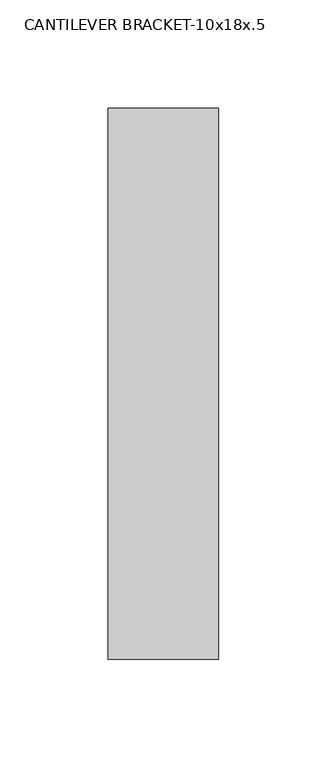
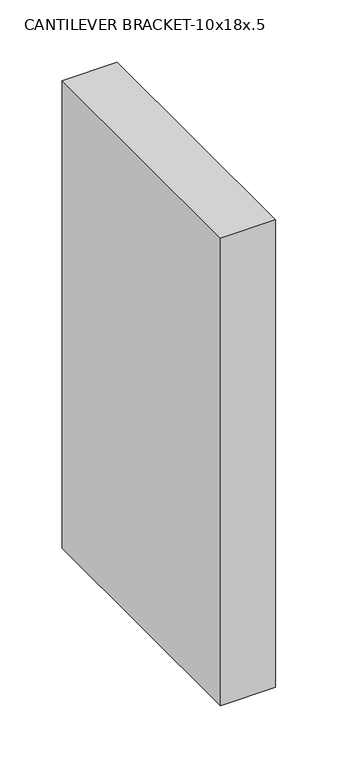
"""IFC4 building model written with IfcOpenShell, lengths in millimetres: proxy geometry, CANTILEVER BRACKET-10x18x.5."""

import ifcopenshell
import ifcopenshell.guid

model = None  # the IFC model being written
_history = None  # IfcOwnerHistory: only IFC2X3 demands one
_inside = {}  # id of a spatial element -> (the spatial element, [elements in it])
_under = {}  # id of a project, library or spatial element -> (it, [spatial elements below it])
_declared = {}  # id of a project -> (the project, [libraries it declares])
_typed = {}  # id of a type object -> (the type object, [elements of that type])
_made_of = {}  # id of a material, layer set ... -> (it, [elements and type objects made of it])


def new_model(schema):
    """Start an empty IFC model of exactly this schema.

    Asked for "IFC4X3", IfcOpenShell would pick the latest addendum, in which some entities
    have other attributes; the version numbers below select the first issue.
    IFC2X3 requires an IfcOwnerHistory on every rooted entity: one is made here for all.
    """
    global model, _history
    if schema == "IFC4X3":
        model = ifcopenshell.file(schema_version=(4, 3, 0, 0))
    else:
        model = ifcopenshell.file(schema=schema)
    _inside.clear()
    _under.clear()
    _declared.clear()
    _typed.clear()
    _made_of.clear()
    _history = None
    if model.schema == "IFC2X3":
        org = make("IfcOrganization", Name="unknown")
        user = make(
            "IfcPersonAndOrganization",
            ThePerson=make("IfcPerson", FamilyName="unknown"),
            TheOrganization=org,
        )
        app = make(
            "IfcApplication",
            ApplicationDeveloper=org,
            Version="unknown",
            ApplicationFullName="unknown",
            ApplicationIdentifier="unknown",
        )
        _history = make(
            "IfcOwnerHistory",
            OwningUser=user,
            OwningApplication=app,
            ChangeAction="ADDED",
            CreationDate=0,
        )
    return model


def make(cls, **values):
    """One entity of the class cls with the attributes given. An attribute that is None is left unset."""
    return model.create_entity(
        cls, **{name: value for name, value in values.items() if value is not None}
    )


def rooted(cls, **values):
    """An entity with a GlobalId (a new one), such as an element, a storey or a relation."""
    return make(cls, GlobalId=ifcopenshell.guid.new(), OwnerHistory=_history, **values)


def si_unit(unit_type, name, prefix=None):
    """IfcSIUnit, for example si_unit("LENGTHUNIT", "METRE", prefix="MILLI")."""
    return make("IfcSIUnit", UnitType=unit_type, Prefix=prefix, Name=name)


def assignment(units):
    """IfcUnitAssignment: the units of a project."""
    return None if units is None else make("IfcUnitAssignment", Units=units)


def point(xyz):
    """IfcCartesianPoint."""
    return None if xyz is None else make("IfcCartesianPoint", Coordinates=xyz)


def direction(xyz):
    """IfcDirection."""
    return None if xyz is None else make("IfcDirection", DirectionRatios=xyz)


def frame(location, z_axis=None, x_axis=None):
    """IfcAxis2Placement3D, a coordinate frame: its origin and axes. An axis left out is left unset."""
    return make(
        "IfcAxis2Placement3D",
        Location=point(location),
        Axis=direction(z_axis),
        RefDirection=direction(x_axis),
    )


def origin():
    """The frame at (0, 0, 0) with its axes left unset."""
    return frame((0.0, 0.0, 0.0))


def place(relative_to, where):
    """IfcLocalPlacement: puts the frame where relative to a parent placement (None: the world)."""
    return make(
        "IfcLocalPlacement", PlacementRelTo=relative_to, RelativePlacement=where
    )


def context(
    kind, dimensions, precision=None, world=None, true_north=None, identifier=None
):
    """IfcGeometricRepresentationContext, for example the 3D "Model" context."""
    return make(
        "IfcGeometricRepresentationContext",
        ContextIdentifier=identifier,
        ContextType=kind,
        CoordinateSpaceDimension=dimensions,
        Precision=precision,
        WorldCoordinateSystem=world,
        TrueNorth=true_north,
    )


def project(units=None, contexts=None):
    """IfcProject with its units and contexts."""
    return rooted(
        "IfcProject",
        Name="project",
        RepresentationContexts=contexts,
        UnitsInContext=assignment(units),
    )


def spatial(cls, under=None, at=None, **own):
    """A site, building, storey or space (cls), placed at a placement, below another one or the project."""
    s = rooted(cls, ObjectPlacement=at, **own)
    if under is not None:
        _under.setdefault(under.id(), (under, []))[1].append(s)
    return s


def polyline(points):
    """IfcPolyline through the points."""
    return make("IfcPolyline", Points=[point(p) for p in points])


def outline(outer, holes=None, kind="AREA"):
    """IfcArbitraryClosedProfileDef: a profile drawn as a closed curve; with holes, ...WithVoids."""
    if holes is None:
        return make("IfcArbitraryClosedProfileDef", ProfileType=kind, OuterCurve=outer)
    return make(
        "IfcArbitraryProfileDefWithVoids",
        ProfileType=kind,
        OuterCurve=outer,
        InnerCurves=holes,
    )


def extrude(swept, where, along, depth):
    """IfcExtrudedAreaSolid: the profile swept, set in the frame where, extruded along a direction by depth."""
    return make(
        "IfcExtrudedAreaSolid",
        SweptArea=swept,
        Position=where,
        ExtrudedDirection=direction(along),
        Depth=depth,
    )


def shape(context_of_items, identifier, shape_type, items):
    """IfcShapeRepresentation: the items that make up one representation, for example the "Body"."""
    return make(
        "IfcShapeRepresentation",
        ContextOfItems=context_of_items,
        RepresentationIdentifier=identifier,
        RepresentationType=shape_type,
        Items=items,
    )


def source(mapping_origin, context_of_items, identifier, shape_type, items):
    """IfcRepresentationMap: a shape defined once, which mapped items show again and again."""
    return make(
        "IfcRepresentationMap",
        MappingOrigin=mapping_origin,
        MappedRepresentation=shape(context_of_items, identifier, shape_type, items),
    )


def transform(
    local_origin,
    x_axis=None,
    y_axis=None,
    z_axis=None,
    scale=None,
    scale2=None,
    scale3=None,
    uniform=True,
):
    """IfcCartesianTransformationOperator3D, or its non-uniform kind. x_axis, y_axis, z_axis: its Axis1, 2, 3."""
    if uniform:
        return make(
            "IfcCartesianTransformationOperator3D",
            Axis1=direction(x_axis),
            Axis2=direction(y_axis),
            LocalOrigin=point(local_origin),
            Scale=scale,
            Axis3=direction(z_axis),
        )
    return make(
        "IfcCartesianTransformationOperator3DnonUniform",
        Axis1=direction(x_axis),
        Axis2=direction(y_axis),
        LocalOrigin=point(local_origin),
        Scale=scale,
        Axis3=direction(z_axis),
        Scale2=scale2,
        Scale3=scale3,
    )


def mapped(mapping_source, mapping_target):
    """IfcMappedItem: shows the shape of a source again, moved by a transform."""
    return make(
        "IfcMappedItem", MappingSource=mapping_source, MappingTarget=mapping_target
    )


def made_of(thing, what):
    """Note that an element or type object is made of a material, layer set ...; save() writes the relation."""
    if what is not None:
        _made_of.setdefault(what.id(), (what, []))[1].append(thing)
    return thing


def element(
    cls,
    number,
    at=None,
    inside=None,
    cuts=None,
    type_object=None,
    material=None,
    context=None,
    identifier="Body",
    shape_type=None,
    held_by="IfcProductDefinitionShape",
    body=None,
    shapes=None,
    **own,
):
    """One element of the class cls, such as IfcWall. Its Tag is "e" and its number.

    at: its placement. inside: the storey or other place that contains it. cuts: it is an
    opening in that element (IfcRelVoidsElement). A single representation is given by context,
    identifier, shape_type and body (its items); several are given by shapes. held_by: the class
    of the entity that holds the representations. save() writes the other relations.
    """
    e = rooted(cls, Tag="e%d" % number, ObjectPlacement=at, **own)
    if body is not None:
        shapes = [shape(context, identifier, shape_type, body)]
    if shapes is not None:
        e.Representation = make(held_by, Representations=shapes)
    if inside is not None:
        _inside.setdefault(inside.id(), (inside, []))[1].append(e)
    if cuts is not None:
        rooted(
            "IfcRelVoidsElement", RelatingBuildingElement=cuts, RelatedOpeningElement=e
        )
    if type_object is not None:
        _typed.setdefault(type_object.id(), (type_object, []))[1].append(e)
    return made_of(e, material)


def aggregate(whole, parts):
    """IfcRelAggregates: a whole, such as a stair, and the parts it consists of."""
    return rooted("IfcRelAggregates", RelatingObject=whole, RelatedObjects=parts)


def save(model, path):
    """Write the relations noted so far, then the file.

    IfcRelAggregates (storeys below a building ...), IfcRelContainedInSpatialStructure (elements
    in a storey), IfcRelDefinesByType, IfcRelAssociatesMaterial and IfcRelDeclares: one each for
    every whole, place, type object, material and project.
    """
    for whole, parts in _under.values():
        aggregate(whole, parts)
    for where, things in _inside.values():
        rooted(
            "IfcRelContainedInSpatialStructure",
            RelatedElements=things,
            RelatingStructure=where,
        )
    for kind, things in _typed.values():
        rooted("IfcRelDefinesByType", RelatedObjects=things, RelatingType=kind)
    for what, things in _made_of.values():
        rooted("IfcRelAssociatesMaterial", RelatedObjects=things, RelatingMaterial=what)
    for by, libraries in _declared.values():
        rooted("IfcRelDeclares", RelatingContext=by, RelatedDefinitions=libraries)
    model.write(path)


def cantilever_bracket_10x18x_5_fb91e7c7(model_context):
    return source(origin(), model_context, "Body", "SweptSolid", [
        extrude(outline(polyline([(0.0, 0.0), (0.0, 254.0), (50.8, 254.0), (50.8, 0.0), (0.0, 0.0)])), frame((0.0, 0.0, -457.2), z_axis=(0.0, 0.0, 1.0), x_axis=(1.0, 0.0, 0.0)), (0.0, 0.0, 1.0), 457.2),
    ])


if __name__ == "__main__":
    model = new_model("IFC4")
    model_context = context("Model", 3, world=origin())
    ifc_project = project(units=[si_unit("LENGTHUNIT", "METRE", prefix="MILLI")], contexts=[model_context])
    site = spatial("IfcSite", under=ifc_project)
    building = spatial("IfcBuilding", under=site)
    placement = place(None, origin())
    cantilever_bracket_10x18x_5_shape = cantilever_bracket_10x18x_5_fb91e7c7(model_context)
    element("IfcBuildingElementProxy", 1, Name="CANTILEVER BRACKET-10x18x.5", ObjectType="CANTILEVER BRACKET-10x18x.5", at=placement, inside=building, context=model_context, shape_type="MappedRepresentation", body=[
        mapped(cantilever_bracket_10x18x_5_shape, transform((0.0, 0.0, 0.0), x_axis=(1.0, 0.0, 0.0), y_axis=(0.0, 1.0, 0.0), z_axis=(0.0, 0.0, 1.0))),
    ])
    save(model, "model.ifc")
